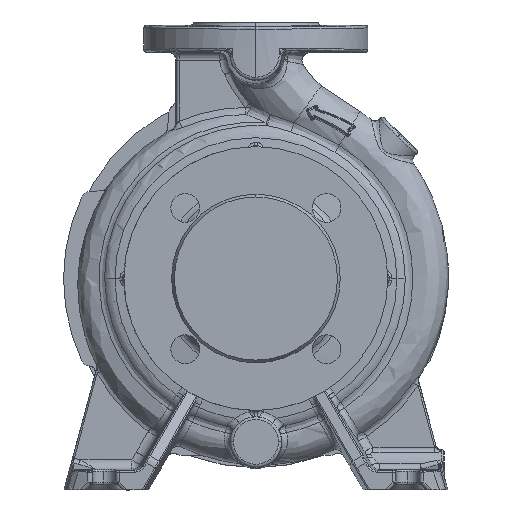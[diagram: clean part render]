
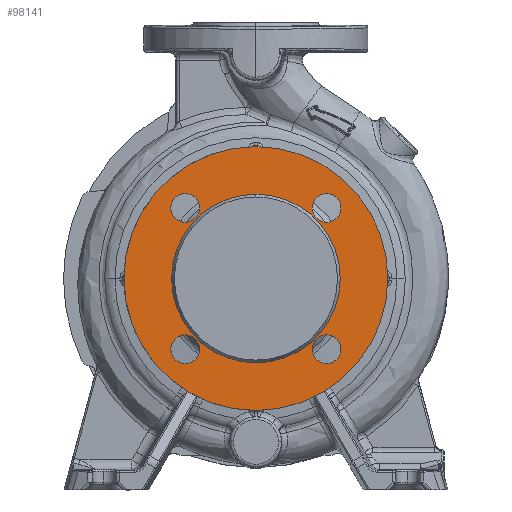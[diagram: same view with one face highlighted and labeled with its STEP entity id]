
A CAD part, top view. The second image highlights one B-rep face of the part: STEP entity #98141.
In plain terms, the highlighted planar face has unit normal (0, 0, 1).
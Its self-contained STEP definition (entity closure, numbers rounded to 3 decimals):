
#1032 = EDGE_CURVE ( 'NONE', #9947, #101853, #91680, .T. ) ;
#2490 = ORIENTED_EDGE ( 'NONE', *, *, #1032, .F. ) ;
#2716 = EDGE_CURVE ( 'NONE', #101318, #57456, #56369, .T. ) ;
#3793 = VERTEX_POINT ( 'NONE', #15792 ) ;
#4015 = CARTESIAN_POINT ( 'NONE',  ( 0., -52.732, 77. ) ) ;
#5637 = CARTESIAN_POINT ( 'NONE',  ( 35.194, 44.194, 77. ) ) ;
#5680 = AXIS2_PLACEMENT_3D ( 'NONE', #57195, #32584, #73727 ) ;
#5952 = CIRCLE ( 'NONE', #64787, 9. ) ;
#6586 = DIRECTION ( 'NONE',  ( 0., 0., -1. ) ) ;
#6938 = CARTESIAN_POINT ( 'NONE',  ( 0., 82.5, 77. ) ) ;
#8271 = EDGE_CURVE ( 'NONE', #66522, #100591, #100430, .T. ) ;
#8357 = EDGE_CURVE ( 'NONE', #3793, #54394, #38532, .T. ) ;
#8571 = AXIS2_PLACEMENT_3D ( 'NONE', #14617, #47209, #72576 ) ;
#9654 = CIRCLE ( 'NONE', #8571, 9. ) ;
#9947 = VERTEX_POINT ( 'NONE', #52638 ) ;
#10810 = CIRCLE ( 'NONE', #105108, 52.732 ) ;
#10923 = AXIS2_PLACEMENT_3D ( 'NONE', #88370, #104921, #53828 ) ;
#11905 = AXIS2_PLACEMENT_3D ( 'NONE', #13121, #81361, #55988 ) ;
#13121 = CARTESIAN_POINT ( 'NONE',  ( 0., 0., 77. ) ) ;
#13338 = AXIS2_PLACEMENT_3D ( 'NONE', #42234, #93642, #43339 ) ;
#14617 = CARTESIAN_POINT ( 'NONE',  ( -44.194, -44.194, 77. ) ) ;
#15379 = CIRCLE ( 'NONE', #5680, 9. ) ;
#15792 = CARTESIAN_POINT ( 'NONE',  ( -53.194, 44.194, 77. ) ) ;
#16992 = DIRECTION ( 'NONE',  ( 0., 1., 0. ) ) ;
#19542 = DIRECTION ( 'NONE',  ( 0., 1., 0. ) ) ;
#20121 = CARTESIAN_POINT ( 'NONE',  ( 44.194, -44.194, 77. ) ) ;
#21075 = AXIS2_PLACEMENT_3D ( 'NONE', #23695, #48999, #65967 ) ;
#21800 = DIRECTION ( 'NONE',  ( 0., 1., 0. ) ) ;
#23532 = CARTESIAN_POINT ( 'NONE',  ( 0., 52.732, 77. ) ) ;
#23695 = CARTESIAN_POINT ( 'NONE',  ( 0., 52.732, 77. ) ) ;
#24422 = AXIS2_PLACEMENT_3D ( 'NONE', #85627, #69805, #19542 ) ;
#25803 = FACE_BOUND ( 'NONE', #36096, .T. ) ;
#26667 = DIRECTION ( 'NONE',  ( 0., 0., -1. ) ) ;
#26915 = CARTESIAN_POINT ( 'NONE',  ( 53.194, -44.194, 77. ) ) ;
#28320 = DIRECTION ( 'NONE',  ( 0., 1., 0. ) ) ;
#31301 = ORIENTED_EDGE ( 'NONE', *, *, #32614, .T. ) ;
#32405 = EDGE_CURVE ( 'NONE', #57456, #101318, #10810, .T. ) ;
#32584 = DIRECTION ( 'NONE',  ( 0., 0., -1. ) ) ;
#32614 = EDGE_CURVE ( 'NONE', #100591, #66522, #71104, .T. ) ;
#35146 = CARTESIAN_POINT ( 'NONE',  ( 0., 0., 77. ) ) ;
#35310 = EDGE_LOOP ( 'NONE', ( #42450, #96359 ) ) ;
#35860 = ORIENTED_EDGE ( 'NONE', *, *, #8271, .T. ) ;
#36059 = CIRCLE ( 'NONE', #13338, 9. ) ;
#36096 = EDGE_LOOP ( 'NONE', ( #35860, #31301 ) ) ;
#38238 = DIRECTION ( 'NONE',  ( 0., 0., -1. ) ) ;
#38532 = CIRCLE ( 'NONE', #10923, 9. ) ;
#41840 = CARTESIAN_POINT ( 'NONE',  ( 53.194, 44.194, 77. ) ) ;
#42234 = CARTESIAN_POINT ( 'NONE',  ( -44.194, -44.194, 77. ) ) ;
#42450 = ORIENTED_EDGE ( 'NONE', *, *, #100009, .T. ) ;
#43339 = DIRECTION ( 'NONE',  ( 0., 1., 0. ) ) ;
#44636 = AXIS2_PLACEMENT_3D ( 'NONE', #20121, #103850, #61597 ) ;
#45345 = CIRCLE ( 'NONE', #93432, 82.5 ) ;
#46707 = VERTEX_POINT ( 'NONE', #77270 ) ;
#47209 = DIRECTION ( 'NONE',  ( 0., 0., -1. ) ) ;
#48999 = DIRECTION ( 'NONE',  ( 0., 0., -1. ) ) ;
#49139 = EDGE_LOOP ( 'NONE', ( #58999, #56846 ) ) ;
#52638 = CARTESIAN_POINT ( 'NONE',  ( 0., -82.5, 77. ) ) ;
#53651 = VERTEX_POINT ( 'NONE', #41840 ) ;
#53828 = DIRECTION ( 'NONE',  ( 0., 1., 0. ) ) ;
#54394 = VERTEX_POINT ( 'NONE', #82713 ) ;
#55724 = VERTEX_POINT ( 'NONE', #5637 ) ;
#55988 = DIRECTION ( 'NONE',  ( 0., 1., 0. ) ) ;
#56369 = CIRCLE ( 'NONE', #11905, 52.732 ) ;
#56846 = ORIENTED_EDGE ( 'NONE', *, *, #8357, .T. ) ;
#57195 = CARTESIAN_POINT ( 'NONE',  ( 44.194, 44.194, 77. ) ) ;
#57456 = VERTEX_POINT ( 'NONE', #4015 ) ;
#58752 = EDGE_CURVE ( 'NONE', #46707, #90706, #36059, .T. ) ;
#58999 = ORIENTED_EDGE ( 'NONE', *, *, #92094, .T. ) ;
#61597 = DIRECTION ( 'NONE',  ( 0., 1., 0. ) ) ;
#62136 = CARTESIAN_POINT ( 'NONE',  ( 0., 0., 77. ) ) ;
#63420 = EDGE_LOOP ( 'NONE', ( #97155, #88285 ) ) ;
#63939 = FACE_BOUND ( 'NONE', #49139, .T. ) ;
#64787 = AXIS2_PLACEMENT_3D ( 'NONE', #106604, #96687, #21800 ) ;
#65967 = DIRECTION ( 'NONE',  ( 0., 1., 0. ) ) ;
#66522 = VERTEX_POINT ( 'NONE', #26915 ) ;
#66642 = FACE_OUTER_BOUND ( 'NONE', #107675, .T. ) ;
#67899 = FACE_BOUND ( 'NONE', #35310, .T. ) ;
#69044 = ORIENTED_EDGE ( 'NONE', *, *, #107903, .T. ) ;
#69103 = ORIENTED_EDGE ( 'NONE', *, *, #87674, .F. ) ;
#69805 = DIRECTION ( 'NONE',  ( 0., 0., -1. ) ) ;
#70086 = EDGE_LOOP ( 'NONE', ( #78268, #69044 ) ) ;
#71104 = CIRCLE ( 'NONE', #74862, 9. ) ;
#72576 = DIRECTION ( 'NONE',  ( 0., 1., 0. ) ) ;
#73727 = DIRECTION ( 'NONE',  ( 0., 1., 0. ) ) ;
#74862 = AXIS2_PLACEMENT_3D ( 'NONE', #107151, #6586, #107865 ) ;
#75459 = PLANE ( 'NONE',  #21075 ) ;
#76050 = CARTESIAN_POINT ( 'NONE',  ( -44.194, 44.194, 77. ) ) ;
#76658 = DIRECTION ( 'NONE',  ( 0., 1., 0. ) ) ;
#77270 = CARTESIAN_POINT ( 'NONE',  ( -53.194, -44.194, 77. ) ) ;
#78268 = ORIENTED_EDGE ( 'NONE', *, *, #78563, .T. ) ;
#78563 = EDGE_CURVE ( 'NONE', #53651, #55724, #5952, .T. ) ;
#79638 = FACE_BOUND ( 'NONE', #63420, .T. ) ;
#80369 = CARTESIAN_POINT ( 'NONE',  ( -35.194, -44.194, 77. ) ) ;
#80399 = CARTESIAN_POINT ( 'NONE',  ( 35.194, -44.194, 77. ) ) ;
#81361 = DIRECTION ( 'NONE',  ( 0., 0., -1. ) ) ;
#82713 = CARTESIAN_POINT ( 'NONE',  ( -35.194, 44.194, 77. ) ) ;
#85627 = CARTESIAN_POINT ( 'NONE',  ( 0., 0., 77. ) ) ;
#87674 = EDGE_CURVE ( 'NONE', #101853, #9947, #45345, .T. ) ;
#87966 = CIRCLE ( 'NONE', #88952, 9. ) ;
#88285 = ORIENTED_EDGE ( 'NONE', *, *, #32405, .T. ) ;
#88370 = CARTESIAN_POINT ( 'NONE',  ( -44.194, 44.194, 77. ) ) ;
#88952 = AXIS2_PLACEMENT_3D ( 'NONE', #76050, #102166, #16992 ) ;
#90191 = FACE_BOUND ( 'NONE', #70086, .T. ) ;
#90706 = VERTEX_POINT ( 'NONE', #80369 ) ;
#91680 = CIRCLE ( 'NONE', #24422, 82.5 ) ;
#92094 = EDGE_CURVE ( 'NONE', #54394, #3793, #87966, .T. ) ;
#93432 = AXIS2_PLACEMENT_3D ( 'NONE', #62136, #38238, #28320 ) ;
#93642 = DIRECTION ( 'NONE',  ( 0., 0., -1. ) ) ;
#96359 = ORIENTED_EDGE ( 'NONE', *, *, #58752, .T. ) ;
#96687 = DIRECTION ( 'NONE',  ( 0., 0., -1. ) ) ;
#97155 = ORIENTED_EDGE ( 'NONE', *, *, #2716, .T. ) ;
#98141 = ADVANCED_FACE ( 'NONE', ( #79638, #66642, #63939, #90191, #25803, #67899 ), #75459, .F. ) ;
#100009 = EDGE_CURVE ( 'NONE', #90706, #46707, #9654, .T. ) ;
#100430 = CIRCLE ( 'NONE', #44636, 9. ) ;
#100591 = VERTEX_POINT ( 'NONE', #80399 ) ;
#101318 = VERTEX_POINT ( 'NONE', #23532 ) ;
#101853 = VERTEX_POINT ( 'NONE', #6938 ) ;
#102166 = DIRECTION ( 'NONE',  ( 0., 0., -1. ) ) ;
#103850 = DIRECTION ( 'NONE',  ( 0., 0., -1. ) ) ;
#104921 = DIRECTION ( 'NONE',  ( 0., 0., -1. ) ) ;
#105108 = AXIS2_PLACEMENT_3D ( 'NONE', #35146, #26667, #76658 ) ;
#106604 = CARTESIAN_POINT ( 'NONE',  ( 44.194, 44.194, 77. ) ) ;
#107151 = CARTESIAN_POINT ( 'NONE',  ( 44.194, -44.194, 77. ) ) ;
#107675 = EDGE_LOOP ( 'NONE', ( #69103, #2490 ) ) ;
#107865 = DIRECTION ( 'NONE',  ( 0., 1., 0. ) ) ;
#107903 = EDGE_CURVE ( 'NONE', #55724, #53651, #15379, .T. ) ;
